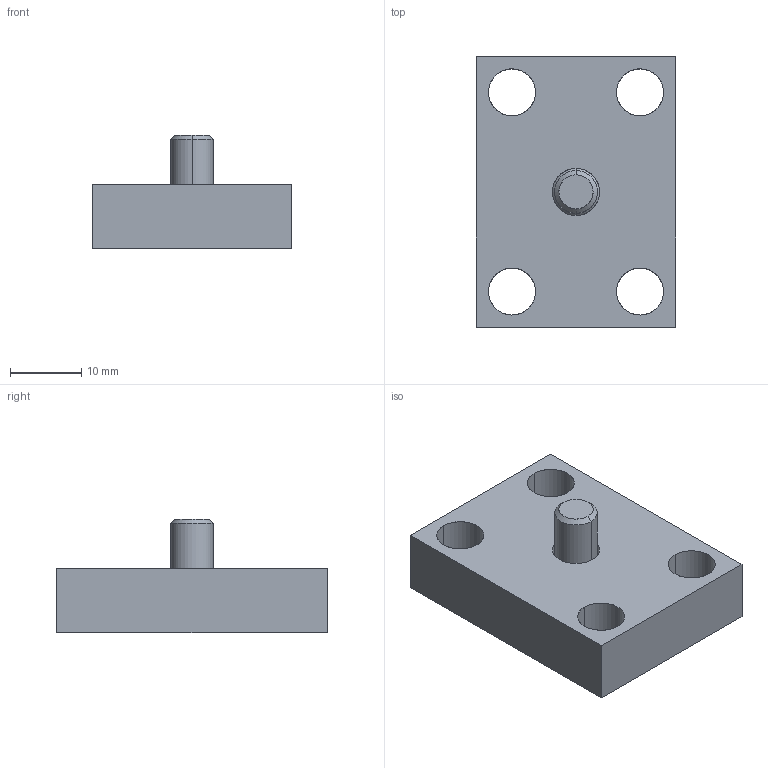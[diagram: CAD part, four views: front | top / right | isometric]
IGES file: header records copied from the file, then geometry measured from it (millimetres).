
Global section: file name: E:\UnigraphicsGraphicData\MISUMI_PRESS-PARTS\IGES\3d_hm-19_04132_r00.igs; native system: NX V5.0; preprocessor: UGS NX IGES V5.0; author: MISUMI; date: 20110105.161015; units: millimetre
Bounding box: 28 x 38 x 16 mm (x, y, z)
Surface area: 4423.5 mm2 (no closed solid volume)
Topology: 0 solids, 0 shells, 33 faces, 228 edges, 228 vertices
Faces by surface type: bspline 33
